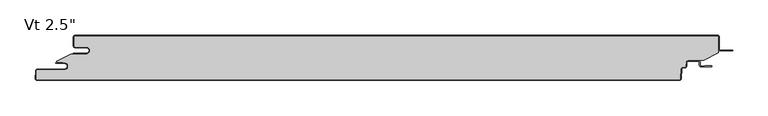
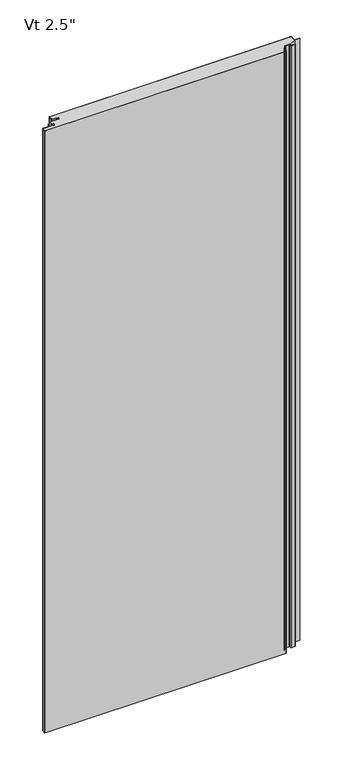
"""IFC4 building model written with IfcOpenShell, lengths in millimetres: plate geometry."""

from ifc_helpers import new_model, si_unit, point, frame, frame_2d, origin, origin_with_axes, place, context, project, spatial, polyline, circle_curve, ellipse_curve, trimmed, segment, composite_curve, outline, extrude, source, transform, mapped, element, save
from ifc_brep_helpers import plane_surface, cylinder_surface, revolved_surface, extruded_surface, advanced_brep


def plate_6e94575f(model_context):
    return source(origin(), model_context, "Body", "SolidModel", [
        extrude(outline(composite_curve([segment(polyline([(-438.4437502, -16.4625), (-454.3187502, -16.4625)]), True, "CONTINUOUS"), segment(trimmed(circle_curve(frame_2d((-454.3187502, -15.08125)), 1.38125), [point((-454.3187502, -16.4625))], [point((-455.7000002, -15.08125))], False, "CARTESIAN"), True, "CONTINUOUS"), segment(polyline([(-455.7000002, -15.08125), (-455.7000002, -2.38125)]), True, "CONTINUOUS"), segment(trimmed(circle_curve(frame_2d((-454.3187502, -2.38125)), 1.38125), [point((-455.7000002, -2.38125))], [point((-454.3187502, -1.0))], False, "CARTESIAN"), True, "CONTINUOUS"), segment(polyline([(-454.3187502, -1.0), (453.7312498, -1.0)]), True, "CONTINUOUS"), segment(trimmed(circle_curve(frame_2d((453.7312498, -2.38125)), 1.38125), [point((453.7312498, -1.0))], [point((455.1124998, -2.38125))], False, "CARTESIAN"), True, "CONTINUOUS"), segment(polyline([(455.1124998, -2.38125), (455.1124998, -24.9057308), (434.2955432, -35.5125), (411.8540781, -35.5125)]), True, "CONTINUOUS"), segment(trimmed(circle_curve(frame_2d((411.8540781, -38.1)), 2.5875), [point((411.8540781, -35.5125))], [point((409.2701242, -37.9645807))], True, "CARTESIAN"), True, "CONTINUOUS"), segment(polyline([(409.2701242, -37.9645807), (408.9680479, -43.728539)]), True, "CONTINUOUS"), segment(trimmed(circle_curve(frame_2d((407.5886909, -43.65625)), 1.38125), [point((408.9680479, -43.728539))], [point((407.5886909, -45.0375))], False, "CARTESIAN"), True, "CONTINUOUS"), segment(polyline([(407.5886909, -45.0375), (404.5448845, -45.0375)]), True, "CONTINUOUS"), segment(trimmed(circle_curve(frame_2d((404.5448845, -47.625)), 2.5875), [point((404.5448845, -45.0375))], [point((401.9609306, -47.4895807))], True, "CARTESIAN"), True, "CONTINUOUS"), segment(polyline([(401.9609306, -47.4895807), (401.2428676, -61.191039)]), True, "CONTINUOUS"), segment(trimmed(circle_curve(frame_2d((399.8635105, -61.11875)), 1.38125), [point((401.2428676, -61.191039))], [point((399.8635105, -62.5))], False, "CARTESIAN"), True, "CONTINUOUS"), segment(polyline([(399.8635105, -62.5), (-508.1799537, -62.5)]), True, "CONTINUOUS"), segment(trimmed(circle_curve(frame_2d((-508.1799537, -61.11875)), 1.38125), [point((-508.1799537, -62.5))], [point((-509.5593107, -61.046461))], False, "CARTESIAN"), True, "CONTINUOUS"), segment(polyline([(-509.5593107, -61.046461), (-508.9769293, -49.933961)]), True, "CONTINUOUS"), segment(trimmed(circle_curve(frame_2d((-507.5975722, -50.00625)), 1.38125), [point((-508.9769293, -49.933961))], [point((-507.5975722, -48.625))], False, "CARTESIAN"), True, "CONTINUOUS"), segment(polyline([(-507.5975722, -48.625), (-469.4142676, -48.625)]), True, "CONTINUOUS"), segment(trimmed(circle_curve(frame_2d((-469.4142676, -43.65625)), 4.96875), [point((-469.4142676, -48.625))], [point((-469.4142676, -38.6875))], True, "CARTESIAN"), True, "CONTINUOUS"), segment(polyline([(-469.4142676, -38.6875), (-471.0017676, -38.89375), (-471.0017676, -38.1), (-480.5125002, -38.1), (-480.5125002, -36.5326309), (-460.6260924, -26.4), (-438.4437502, -26.4)]), True, "CONTINUOUS"), segment(trimmed(circle_curve(frame_2d((-438.4437502, -21.43125)), 4.96875), [point((-438.4437502, -26.4))], [point((-438.4437502, -16.4625))], True, "CARTESIAN"), True, "CONTINUOUS")], self_intersect=False)), origin_with_axes(), (0.0, 0.0, 1.0), 2400.0),
        extrude(outline(composite_curve([segment(polyline([(-456.7000002, -25.4), (-438.4437502, -25.4)]), True, "CONTINUOUS"), segment(trimmed(circle_curve(frame_2d((-438.4437502, -21.43125)), 3.96875), [point((-438.4437502, -25.4))], [point((-438.4437502, -17.4625))], True, "CARTESIAN"), True, "CONTINUOUS"), segment(polyline([(-438.4437502, -17.4625), (-454.3187502, -17.4625)]), True, "CONTINUOUS"), segment(trimmed(circle_curve(frame_2d((-454.3187502, -15.08125)), 2.38125), [point((-454.3187502, -17.4625))], [point((-456.7000002, -15.08125))], False, "CARTESIAN"), True, "CONTINUOUS"), segment(polyline([(-456.7000002, -15.08125), (-456.7000002, -2.38125)]), True, "CONTINUOUS"), segment(trimmed(circle_curve(frame_2d((-454.3187502, -2.38125)), 2.38125), [point((-456.7000002, -2.38125))], [point((-454.3187502, 0.0))], False, "CARTESIAN"), True, "CONTINUOUS"), segment(polyline([(-454.3187502, 0.0), (453.7312498, 0.0)]), True, "CONTINUOUS"), segment(trimmed(circle_curve(frame_2d((453.7312498, -2.38125)), 2.38125), [point((453.7312498, 0.0))], [point((456.1124998, -2.38125))], False, "CARTESIAN"), True, "CONTINUOUS"), segment(polyline([(456.1124998, -2.38125), (456.1124998, -19.446875)]), True, "CONTINUOUS"), segment(trimmed(circle_curve(frame_2d((457.6999998, -19.446875)), 1.5875), [point((456.1124998, -19.446875))], [point((457.6999998, -21.034375))], True, "CARTESIAN"), True, "CONTINUOUS"), segment(polyline([(457.6999998, -21.034375), (475.1624998, -21.034375), (475.1624998, -22.034375), (457.6999998, -22.034375)]), True, "CONTINUOUS"), segment(trimmed(circle_curve(frame_2d((457.6999998, -19.446875)), 2.5875), [point((457.6999998, -22.034375))], [point((455.1124998, -19.446875))], False, "CARTESIAN"), True, "CONTINUOUS"), segment(polyline([(455.1124998, -19.446875), (455.1124998, -2.38125)]), True, "CONTINUOUS"), segment(trimmed(circle_curve(frame_2d((453.7312498, -2.38125)), 1.38125), [point((455.1124998, -2.38125))], [point((453.7312498, -1.0))], True, "CARTESIAN"), True, "CONTINUOUS"), segment(polyline([(453.7312498, -1.0), (-454.3187502, -1.0)]), True, "CONTINUOUS"), segment(trimmed(circle_curve(frame_2d((-454.3187502, -2.38125)), 1.38125), [point((-454.3187502, -1.0))], [point((-455.7000002, -2.38125))], True, "CARTESIAN"), True, "CONTINUOUS"), segment(polyline([(-455.7000002, -2.38125), (-455.7000002, -15.08125)]), True, "CONTINUOUS"), segment(trimmed(circle_curve(frame_2d((-454.3187502, -15.08125)), 1.38125), [point((-455.7000002, -15.08125))], [point((-454.3187502, -16.4625))], True, "CARTESIAN"), True, "CONTINUOUS"), segment(polyline([(-454.3187502, -16.4625), (-438.4437502, -16.4625)]), True, "CONTINUOUS"), segment(trimmed(circle_curve(frame_2d((-438.4437502, -21.43125)), 4.96875), [point((-438.4437502, -16.4625))], [point((-438.4437502, -26.4))], False, "CARTESIAN"), True, "CONTINUOUS"), segment(polyline([(-438.4437502, -26.4), (-456.7000002, -26.4), (-456.7000002, -25.4)]), True, "CONTINUOUS")], self_intersect=False)), origin_with_axes(), (0.0, 0.0, 1.0), 2400.0),
        advanced_brep(
        [(-480.7252051, -38.1, 2400.0), (-480.7252051, -39.6875, 2400.0), (-469.4142676, -39.6875, 2400.0), (-469.4142676, -47.625, 2400.0), (-507.5975722, -47.625, 2400.0), (-509.9755588, -49.881625, 2400.0), (-510.5579402, -60.994125, 2400.0), (-508.1799537, -63.5, 2400.0), (399.8635105, -63.5, 2400.0), (402.2414971, -61.243375, 2400.0), (402.9595601, -47.5419167, 2400.0), (404.5448845, -46.0375, 2400.0), (407.5886909, -46.0375, 2400.0), (409.9666775, -43.780875, 2400.0), (410.2687537, -38.0169167, 2400.0), (411.8540781, -36.5125, 2400.0), (426.7294824, -36.5125, 2400.0), (428.3169824, -38.1, 2400.0), (428.3169824, -42.2671875, 2400.0), (430.6982324, -44.6484375, 2400.0), (445.189853, -44.6484375, 2400.0), (445.189853, -42.8546875, 2400.0), (435.4607324, -42.8546875, 2400.0), (435.4607324, -43.6484375, 2400.0), (430.6982324, -43.6484375, 2400.0), (429.3169824, -42.2671875, 2400.0), (429.3169824, -38.1, 2400.0), (426.7294824, -35.5125, 2400.0), (411.8540781, -35.5125, 2400.0), (409.2701242, -37.9645807, 2400.0), (408.9680479, -43.728539, 2400.0), (407.5886909, -45.0375, 2400.0), (404.5448845, -45.0375, 2400.0), (401.9609306, -47.4895807, 2400.0), (401.2428676, -61.191039, 2400.0), (399.8635105, -62.5, 2400.0), (-508.1799537, -62.5, 2400.0), (-509.5593107, -61.046461, 2400.0), (-508.9769293, -49.933961, 2400.0), (-507.5975722, -48.625, 2400.0), (-469.4142676, -48.625, 2400.0), (-469.4142676, -38.6875, 2400.0), (-471.0017676, -38.89375, 2400.0), (-471.0017676, -38.1, 2400.0), (-480.7252051, -38.1, 0.0), (-471.0017676, -38.1, 0.0), (-471.0017676, -38.89375, 0.0), (-469.4142676, -38.6875, 0.0), (-469.4142676, -48.625, 0.0), (-507.5975722, -48.625, 0.0), (-508.9769293, -49.933961, 0.0), (-509.5593107, -61.046461, 0.0), (-508.1799537, -62.5, 0.0), (399.8635105, -62.5, 0.0), (401.2428676, -61.191039, 0.0), (401.9609306, -47.4895807, 0.0), (404.5448845, -45.0375, 0.0), (407.5886909, -45.0375, 0.0), (408.9680479, -43.728539, 0.0), (409.2701242, -37.9645807, 0.0), (411.8540781, -35.5125, 0.0), (426.7294824, -35.5125, 0.0), (429.3169824, -38.1, 0.0), (429.3169824, -42.2671875, 0.0), (430.6982324, -43.6484375, 0.0), (435.4607324, -43.6484375, 0.0), (435.4607324, -42.8546875, 0.0), (445.189853, -42.8546875, 0.0), (445.189853, -44.6484375, 0.0), (430.6982324, -44.6484375, 0.0), (428.3169824, -42.2671875, 0.0), (428.3169824, -38.1, 0.0), (426.7294824, -36.5125, 0.0), (411.8540781, -36.5125, 0.0), (410.2687537, -38.0169167, 0.0), (409.9666775, -43.780875, 0.0), (407.5886909, -46.0375, 0.0), (404.5448845, -46.0375, 0.0), (402.9595601, -47.5419167, 0.0), (402.2414971, -61.243375, 0.0), (399.8635105, -63.5, 0.0), (-508.1799537, -63.5, 0.0), (-510.5579402, -60.994125, 0.0), (-509.9755588, -49.881625, 0.0), (-507.5975722, -47.625, 0.0), (-469.4142676, -47.625, 0.0), (-469.4142676, -39.6875, 0.0), (-480.7252051, -39.6875, 0.0)],
        [
            (0, 1, circle_curve(frame((-480.7252051, -38.89375, 2400.0), z_axis=(0.0, 0.0, 1.0), x_axis=(1.0, 0.0, 0.0)), 0.79375)),
            (1, 2),
            (2, 3, circle_curve(frame((-469.4142676, -43.65625, 2400.0), z_axis=(0.0, 0.0, -1.0), x_axis=(1.0, 0.0, 0.0)), 3.96875)),
            (3, 4),
            (4, 5, circle_curve(frame((-507.5975722, -50.00625, 2400.0), z_axis=(0.0, 0.0, 1.0), x_axis=(1.0, 0.0, 0.0)), 2.38125)),
            (5, 6),
            (6, 7, circle_curve(frame((-508.1799537, -61.11875, 2400.0), z_axis=(0.0, 0.0, 1.0), x_axis=(1.0, 0.0, 0.0)), 2.38125)),
            (7, 8),
            (8, 9, circle_curve(frame((399.8635105, -61.11875, 2400.0), z_axis=(0.0, 0.0, 1.0), x_axis=(1.0, 0.0, 0.0)), 2.38125)),
            (9, 10),
            (10, 11, circle_curve(frame((404.5448845, -47.625, 2400.0), z_axis=(0.0, 0.0, -1.0), x_axis=(1.0, 0.0, 0.0)), 1.5875)),
            (11, 12),
            (12, 13, circle_curve(frame((407.5886909, -43.65625, 2400.0), z_axis=(0.0, 0.0, 1.0), x_axis=(1.0, 0.0, 0.0)), 2.38125)),
            (13, 14),
            (14, 15, circle_curve(frame((411.8540781, -38.1, 2400.0), z_axis=(0.0, 0.0, -1.0), x_axis=(1.0, 0.0, 0.0)), 1.5875)),
            (15, 16),
            (16, 17, circle_curve(frame((426.7294824, -38.1, 2400.0), z_axis=(0.0, 0.0, -1.0), x_axis=(1.0, 0.0, 0.0)), 1.5875)),
            (17, 18),
            (18, 19, circle_curve(frame((430.6982324, -42.2671875, 2400.0), z_axis=(0.0, 0.0, 1.0), x_axis=(1.0, 0.0, 0.0)), 2.38125)),
            (19, 20),
            (20, 21, ellipse_curve(frame((445.189853, -43.7515625, 2400.0), z_axis=(0.0, 0.0, 1.0), x_axis=(0.0, 1.0, 0.0)), 0.896875, 0.7852275)),
            (21, 22),
            (22, 23),
            (23, 24),
            (24, 25, circle_curve(frame((430.6982324, -42.2671875, 2400.0), z_axis=(0.0, 0.0, -1.0), x_axis=(1.0, 0.0, 0.0)), 1.38125)),
            (25, 26),
            (26, 27, circle_curve(frame((426.7294824, -38.1, 2400.0), z_axis=(0.0, 0.0, 1.0), x_axis=(1.0, 0.0, 0.0)), 2.5875)),
            (27, 28),
            (28, 29, circle_curve(frame((411.8540781, -38.1, 2400.0), z_axis=(0.0, 0.0, 1.0), x_axis=(1.0, 0.0, 0.0)), 2.5875)),
            (29, 30),
            (30, 31, circle_curve(frame((407.5886909, -43.65625, 2400.0), z_axis=(0.0, 0.0, -1.0), x_axis=(1.0, 0.0, 0.0)), 1.38125)),
            (31, 32),
            (32, 33, circle_curve(frame((404.5448845, -47.625, 2400.0), z_axis=(0.0, 0.0, 1.0), x_axis=(1.0, 0.0, 0.0)), 2.5875)),
            (33, 34),
            (34, 35, circle_curve(frame((399.8635105, -61.11875, 2400.0), z_axis=(0.0, 0.0, -1.0), x_axis=(1.0, 0.0, 0.0)), 1.38125)),
            (35, 36),
            (36, 37, circle_curve(frame((-508.1799537, -61.11875, 2400.0), z_axis=(0.0, 0.0, -1.0), x_axis=(1.0, 0.0, 0.0)), 1.38125)),
            (37, 38),
            (38, 39, circle_curve(frame((-507.5975722, -50.00625, 2400.0), z_axis=(0.0, 0.0, -1.0), x_axis=(1.0, 0.0, 0.0)), 1.38125)),
            (39, 40),
            (40, 41, circle_curve(frame((-469.4142676, -43.65625, 2400.0), z_axis=(0.0, 0.0, 1.0), x_axis=(1.0, 0.0, 0.0)), 4.96875)),
            (41, 42),
            (42, 43),
            (43, 0),
            (44, 45),
            (45, 46),
            (46, 47),
            (47, 48, circle_curve(frame((-469.4142676, -43.65625, 0.0), z_axis=(0.0, 0.0, -1.0), x_axis=(1.0, 0.0, 0.0)), 4.96875)),
            (48, 49),
            (49, 50, circle_curve(frame((-507.5975722, -50.00625, 0.0), z_axis=(0.0, 0.0, 1.0), x_axis=(1.0, 0.0, 0.0)), 1.38125)),
            (50, 51),
            (51, 52, circle_curve(frame((-508.1799537, -61.11875, 0.0), z_axis=(0.0, 0.0, 1.0), x_axis=(1.0, 0.0, 0.0)), 1.38125)),
            (52, 53),
            (53, 54, circle_curve(frame((399.8635105, -61.11875, 0.0), z_axis=(0.0, 0.0, 1.0), x_axis=(1.0, 0.0, 0.0)), 1.38125)),
            (54, 55),
            (55, 56, circle_curve(frame((404.5448845, -47.625, 0.0), z_axis=(0.0, 0.0, -1.0), x_axis=(1.0, 0.0, 0.0)), 2.5875)),
            (56, 57),
            (57, 58, circle_curve(frame((407.5886909, -43.65625, 0.0), z_axis=(0.0, 0.0, 1.0), x_axis=(1.0, 0.0, 0.0)), 1.38125)),
            (58, 59),
            (59, 60, circle_curve(frame((411.8540781, -38.1, 0.0), z_axis=(0.0, 0.0, -1.0), x_axis=(1.0, 0.0, 0.0)), 2.5875)),
            (60, 61),
            (61, 62, circle_curve(frame((426.7294824, -38.1, 0.0), z_axis=(0.0, 0.0, -1.0), x_axis=(1.0, 0.0, 0.0)), 2.5875)),
            (62, 63),
            (63, 64, circle_curve(frame((430.6982324, -42.2671875, 0.0), z_axis=(0.0, 0.0, 1.0), x_axis=(1.0, 0.0, 0.0)), 1.38125)),
            (64, 65),
            (65, 66),
            (66, 67),
            (67, 68, ellipse_curve(frame((445.189853, -43.7515625, 0.0), z_axis=(0.0, 0.0, -1.0), x_axis=(0.0, 1.0, 0.0)), 0.896875, 0.7852275)),
            (68, 69),
            (69, 70, circle_curve(frame((430.6982324, -42.2671875, 0.0), z_axis=(0.0, 0.0, -1.0), x_axis=(1.0, 0.0, 0.0)), 2.38125)),
            (70, 71),
            (71, 72, circle_curve(frame((426.7294824, -38.1, 0.0), z_axis=(0.0, 0.0, 1.0), x_axis=(1.0, 0.0, 0.0)), 1.5875)),
            (72, 73),
            (73, 74, circle_curve(frame((411.8540781, -38.1, 0.0), z_axis=(0.0, 0.0, 1.0), x_axis=(1.0, 0.0, 0.0)), 1.5875)),
            (74, 75),
            (75, 76, circle_curve(frame((407.5886909, -43.65625, 0.0), z_axis=(0.0, 0.0, -1.0), x_axis=(1.0, 0.0, 0.0)), 2.38125)),
            (76, 77),
            (77, 78, circle_curve(frame((404.5448845, -47.625, 0.0), z_axis=(0.0, 0.0, 1.0), x_axis=(1.0, 0.0, 0.0)), 1.5875)),
            (78, 79),
            (79, 80, circle_curve(frame((399.8635105, -61.11875, 0.0), z_axis=(0.0, 0.0, -1.0), x_axis=(1.0, 0.0, 0.0)), 2.38125)),
            (80, 81),
            (81, 82, circle_curve(frame((-508.1799537, -61.11875, 0.0), z_axis=(0.0, 0.0, -1.0), x_axis=(1.0, 0.0, 0.0)), 2.38125)),
            (82, 83),
            (83, 84, circle_curve(frame((-507.5975722, -50.00625, 0.0), z_axis=(0.0, 0.0, -1.0), x_axis=(1.0, 0.0, 0.0)), 2.38125)),
            (84, 85),
            (85, 86, circle_curve(frame((-469.4142676, -43.65625, 0.0), z_axis=(0.0, 0.0, 1.0), x_axis=(1.0, 0.0, 0.0)), 3.96875)),
            (86, 87),
            (87, 44, circle_curve(frame((-480.7252051, -38.89375, 0.0), z_axis=(0.0, 0.0, -1.0), x_axis=(1.0, 0.0, 0.0)), 0.79375)),
            (20, 68),
            (67, 21),
            (66, 22),
            (65, 23),
            (41, 47),
            (46, 42),
            (45, 43),
            (40, 48),
            (39, 49),
            (38, 50),
            (37, 51),
            (33, 55),
            (54, 34),
            (32, 56),
            (31, 57),
            (30, 58),
            (29, 59),
            (28, 60),
            (64, 24),
            (63, 25),
            (62, 26),
            (61, 27),
            (18, 70),
            (69, 19),
            (17, 71),
            (16, 72),
            (15, 73),
            (14, 74),
            (13, 75),
            (12, 76),
            (11, 77),
            (10, 78),
            (9, 79),
            (5, 83),
            (82, 6),
            (4, 84),
            (3, 85),
            (2, 86),
            (1, 87),
            (0, 44),
            (36, 52),
            (35, 53),
            (8, 80),
            (7, 81),
        ],
        [
            plane_surface(frame((-0.2937502, -63.5, 2400.0), z_axis=(0.0, 0.0, 1.0), x_axis=(0.0, -1.0, 0.0))),
            plane_surface(frame((-0.2937502, -63.5, 0.0), z_axis=(0.0, 0.0, -1.0), x_axis=(0.0, -1.0, 0.0))),
            extruded_surface(trimmed(ellipse_curve(frame((445.189853, -43.7515625, 2400.0), z_axis=(0.0, 0.0, -1.0), x_axis=(0.0, 1.0, 0.0)), 0.896875, 0.7852275), [point((445.189853, -42.8546875, 2400.0))], [point((445.189853, -44.6484375, 2400.0))], True, "CARTESIAN"), (0.0, 0.0, -2400.0), 2400.0),
            plane_surface(frame((435.4607324, -42.8546875, 2400.0), z_axis=(0.0, 1.0, 0.0), x_axis=(0.0, 0.0, -1.0))),
            plane_surface(frame((435.4607324, -43.6484375, 2400.0), z_axis=(-1.0, 0.0, 0.0), x_axis=(0.0, 0.0, -1.0))),
            plane_surface(frame((-471.0017676, -38.89375, 2400.0), z_axis=(-0.12883844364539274, 0.9916655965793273, 0.0), x_axis=(0.0, 0.0, -1.0))),
            plane_surface(frame((-471.0017676, -38.1, 2400.0), z_axis=(1.0, 0.0, 0.0), x_axis=(0.0, 0.0, -1.0))),
            cylinder_surface(frame((-469.4142676, -43.65625, 2400.0), z_axis=(0.0, 0.0, 1.0), x_axis=(1.0, 0.0, 0.0)), 4.96875),
            plane_surface(frame((-469.4142676, -48.625, 2400.0), z_axis=(0.0, -1.0, 0.0), x_axis=(0.0, 0.0, -1.0))),
            revolved_surface(polyline([(-506.2163222, -50.00625, 0.0), (-506.2163222, -50.00625, 2400.0)]), (-507.5975722, -50.00625, 2400.0), (0.0, 0.0, -1.0)),
            plane_surface(frame((-508.9769293, -49.933961, 2400.0), z_axis=(0.9986295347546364, -0.05233595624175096, 0.0), x_axis=(0.0, 0.0, -1.0))),
            plane_surface(frame((401.2428676, -61.191039, 2400.0), z_axis=(-0.9986295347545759, 0.05233595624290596, 0.0), x_axis=(0.0, 0.0, -1.0))),
            cylinder_surface(frame((404.5448845, -47.625, 2400.0), z_axis=(0.0, 0.0, 1.0), x_axis=(1.0, 0.0, 0.0)), 2.5875),
            plane_surface(frame((404.5448845, -45.0375, 2400.0), z_axis=(0.0, 1.0, 0.0), x_axis=(0.0, 0.0, -1.0))),
            revolved_surface(polyline([(408.96994090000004, -43.65625, 0.0), (408.96994090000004, -43.65625, 2400.0)]), (407.5886909, -43.65625, 2400.0), (0.0, 0.0, -1.0)),
            plane_surface(frame((408.9680479, -43.728539, 2400.0), z_axis=(-0.998629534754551, 0.05233595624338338, 0.0), x_axis=(0.0, 0.0, -1.0))),
            cylinder_surface(frame((411.8540781, -38.1, 2400.0), z_axis=(0.0, 0.0, 1.0), x_axis=(1.0, 0.0, 0.0)), 2.5875),
            plane_surface(frame((430.6982324, -43.6484375, 2400.0), z_axis=(0.0, 1.0, 0.0), x_axis=(0.0, 0.0, -1.0))),
            revolved_surface(polyline([(432.0794824, -42.2671875, 0.0), (432.0794824, -42.2671875, 2400.0)]), (430.6982324, -42.2671875, 2400.0), (0.0, 0.0, -1.0)),
            plane_surface(frame((429.3169824, -38.1, 2400.0), z_axis=(1.0, 0.0, 0.0), x_axis=(0.0, 0.0, -1.0))),
            cylinder_surface(frame((426.7294824, -38.1, 2400.0), z_axis=(0.0, 0.0, 1.0), x_axis=(1.0, 0.0, 0.0)), 2.5875),
            plane_surface(frame((411.8540781, -35.5125, 2400.0), z_axis=(0.0, 1.0, 0.0), x_axis=(0.0, 0.0, -1.0))),
            cylinder_surface(frame((430.6982324, -42.2671875, 2400.0), z_axis=(0.0, 0.0, 1.0), x_axis=(1.0, 0.0, 0.0)), 2.38125),
            plane_surface(frame((428.3169824, -42.2671875, 2400.0), z_axis=(-1.0, 0.0, 0.0), x_axis=(0.0, 0.0, -1.0))),
            revolved_surface(polyline([(428.3169824, -38.1, 0.0), (428.3169824, -38.1, 2400.0)]), (426.7294824, -38.1, 2400.0), (0.0, 0.0, -1.0)),
            plane_surface(frame((426.7294824, -36.5125, 2400.0), z_axis=(0.0, -1.0, 0.0), x_axis=(0.0, 0.0, -1.0))),
            revolved_surface(polyline([(413.44157809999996, -38.1, 0.0), (413.44157809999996, -38.1, 2400.0)]), (411.8540781, -38.1, 2400.0), (0.0, 0.0, -1.0)),
            plane_surface(frame((410.2687537, -38.0169167, 2400.0), z_axis=(0.9986295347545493, -0.05233595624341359, 0.0), x_axis=(0.0, 0.0, -1.0))),
            cylinder_surface(frame((407.5886909, -43.65625, 2400.0), z_axis=(0.0, 0.0, 1.0), x_axis=(1.0, 0.0, 0.0)), 2.38125),
            plane_surface(frame((407.5886909, -46.0375, 2400.0), z_axis=(0.0, -1.0, 0.0), x_axis=(0.0, 0.0, -1.0))),
            revolved_surface(polyline([(406.1323845, -47.625, 0.0), (406.1323845, -47.625, 2400.0)]), (404.5448845, -47.625, 2400.0), (0.0, 0.0, -1.0)),
            plane_surface(frame((402.9595601, -47.5419167, 2400.0), z_axis=(0.9986295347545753, -0.052335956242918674, 0.0), x_axis=(0.0, 0.0, -1.0))),
            plane_surface(frame((-510.5579402, -60.994125, 2400.0), z_axis=(-0.9986295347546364, 0.05233595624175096, 0.0), x_axis=(0.0, 0.0, -1.0))),
            cylinder_surface(frame((-507.5975722, -50.00625, 2400.0), z_axis=(0.0, 0.0, 1.0), x_axis=(1.0, 0.0, 0.0)), 2.38125),
            plane_surface(frame((-507.5975722, -47.625, 2400.0), z_axis=(0.0, 1.0, 0.0), x_axis=(0.0, 0.0, -1.0))),
            revolved_surface(polyline([(-465.4455176, -43.65625, 0.0), (-465.4455176, -43.65625, 2400.0)]), (-469.4142676, -43.65625, 2400.0), (0.0, 0.0, -1.0)),
            plane_surface(frame((-469.4142676, -39.6875, 2400.0), z_axis=(0.0, -1.0, 0.0), x_axis=(0.0, 0.0, -1.0))),
            cylinder_surface(frame((-480.7252051, -38.89375, 2400.0), z_axis=(0.0, 0.0, 1.0), x_axis=(1.0, 0.0, 0.0)), 0.79375),
            plane_surface(frame((-480.7252051, -38.1, 2400.0), z_axis=(0.0, 1.0, 0.0), x_axis=(0.0, 0.0, -1.0))),
            revolved_surface(polyline([(-506.7987037, -61.11875, 0.0), (-506.7987037, -61.11875, 2400.0)]), (-508.1799537, -61.11875, 2400.0), (0.0, 0.0, -1.0)),
            plane_surface(frame((-508.1799537, -62.5, 2400.0), z_axis=(0.0, 1.0, 0.0), x_axis=(0.0, 0.0, -1.0))),
            revolved_surface(polyline([(401.24476050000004, -61.11875, 0.0), (401.24476050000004, -61.11875, 2400.0)]), (399.8635105, -61.11875, 2400.0), (0.0, 0.0, -1.0)),
            plane_surface(frame((445.189853, -44.6484375, 2400.0), z_axis=(0.0, -1.0, 0.0), x_axis=(0.0, 0.0, -1.0))),
            cylinder_surface(frame((399.8635105, -61.11875, 2400.0), z_axis=(0.0, 0.0, 1.0), x_axis=(1.0, 0.0, 0.0)), 2.38125),
            plane_surface(frame((399.8635105, -63.5, 2400.0), z_axis=(0.0, -1.0, 0.0), x_axis=(0.0, 0.0, -1.0))),
            cylinder_surface(frame((-508.1799537, -61.11875, 2400.0), z_axis=(0.0, 0.0, 1.0), x_axis=(1.0, 0.0, 0.0)), 2.38125),
        ],
        [
            (0, [[1, 2, 3, 4, 5, 6, 7, 8, 9, 10, 11, 12, 13, 14, 15, 16, 17, 18, 19, 20, 21, 22, 23, 24, 25, 26, 27, 28, 29, 30, 31, 32, 33, 34, 35, 36, 37, 38, 39, 40, 41, 42, 43, 44]]),
            (1, [[45, 46, 47, 48, 49, 50, 51, 52, 53, 54, 55, 56, 57, 58, 59, 60, 61, 62, 63, 64, 65, 66, 67, 68, 69, 70, 71, 72, 73, 74, 75, 76, 77, 78, 79, 80, 81, 82, 83, 84, 85, 86, 87, 88]]),
            (2, [[89, -68, 90, -21]]),
            (3, [[-90, -67, 91, -22]]),
            (4, [[-91, -66, 92, -23]]),
            (5, [[93, -47, 94, -42]]),
            (6, [[-94, -46, 95, -43]]),
            (7, [[96, -48, -93, -41]]),
            (8, [[97, -49, -96, -40]]),
            (9, [[98, -50, -97, -39]]),
            (10, [[99, -51, -98, -38]]),
            (11, [[100, -55, 101, -34]]),
            (12, [[102, -56, -100, -33]]),
            (13, [[103, -57, -102, -32]]),
            (14, [[104, -58, -103, -31]]),
            (15, [[105, -59, -104, -30]]),
            (16, [[106, -60, -105, -29]]),
            (17, [[-92, -65, 107, -24]]),
            (18, [[-107, -64, 108, -25]]),
            (19, [[-108, -63, 109, -26]]),
            (20, [[-109, -62, 110, -27]]),
            (21, [[-110, -61, -106, -28]]),
            (22, [[111, -70, 112, -19]]),
            (23, [[113, -71, -111, -18]]),
            (24, [[114, -72, -113, -17]]),
            (25, [[115, -73, -114, -16]]),
            (26, [[116, -74, -115, -15]]),
            (27, [[117, -75, -116, -14]]),
            (28, [[118, -76, -117, -13]]),
            (29, [[119, -77, -118, -12]]),
            (30, [[120, -78, -119, -11]]),
            (31, [[121, -79, -120, -10]]),
            (32, [[122, -83, 123, -6]]),
            (33, [[124, -84, -122, -5]]),
            (34, [[125, -85, -124, -4]]),
            (35, [[126, -86, -125, -3]]),
            (36, [[127, -87, -126, -2]]),
            (37, [[128, -88, -127, -1]]),
            (38, [[-95, -45, -128, -44]]),
            (39, [[129, -52, -99, -37]]),
            (40, [[130, -53, -129, -36]]),
            (41, [[-101, -54, -130, -35]]),
            (42, [[-112, -69, -89, -20]]),
            (43, [[131, -80, -121, -9]]),
            (44, [[132, -81, -131, -8]]),
            (45, [[-123, -82, -132, -7]]),
        ],
    ),
    ])


if __name__ == "__main__":
    model = new_model("IFC4")
    model_context = context("Model", 3, world=origin())
    ifc_project = project(units=[si_unit("LENGTHUNIT", "METRE", prefix="MILLI")], contexts=[model_context])
    site = spatial("IfcSite", under=ifc_project)
    building = spatial("IfcBuilding", under=site)
    placement = place(None, origin())
    plate_shape = plate_6e94575f(model_context)
    element("IfcPlate", 1, ObjectType="KIP-36-DWTR-R19-CP-Vt-F : Vt 2.5\"", at=placement, inside=building, context=model_context, shape_type="MappedRepresentation", body=[
        mapped(plate_shape, transform((0.0, 0.0, 0.0), x_axis=(1.0, 0.0, 0.0), y_axis=(0.0, 1.0, 0.0), z_axis=(0.0, 0.0, 1.0))),
    ])
    save(model, "model.ifc")
